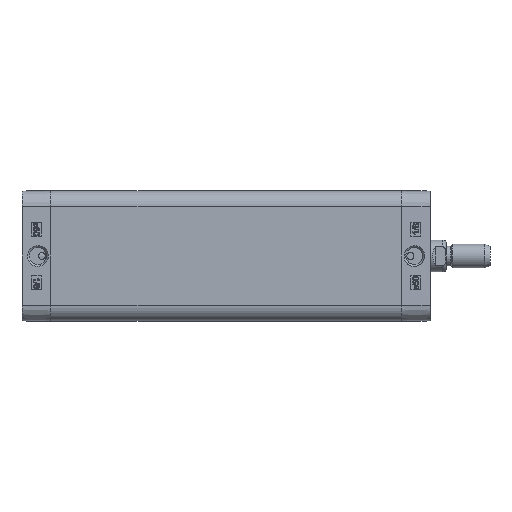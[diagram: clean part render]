
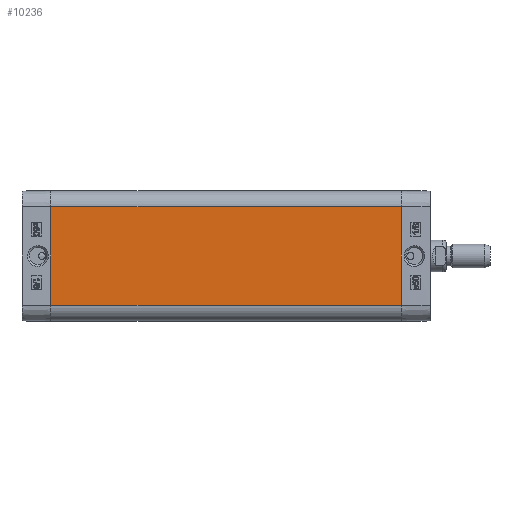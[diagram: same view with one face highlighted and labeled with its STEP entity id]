
A CAD part, left-side view. The second image highlights one B-rep face of the part: STEP entity #10236.
In plain terms, the highlighted planar face has unit normal (-1, 0, 0).
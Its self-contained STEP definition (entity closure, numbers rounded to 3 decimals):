
#5238=CARTESIAN_POINT('',(-32.75,-176.0,24.75));
#5239=VERTEX_POINT('',#5238);
#5246=CARTESIAN_POINT('',(-32.75,-176.0,-24.75));
#5247=VERTEX_POINT('',#5246);
#5248=CARTESIAN_POINT('',(-32.75,-176.0,-24.75));
#5249=DIRECTION('',(0.0,0.0,1.0));
#5250=VECTOR('',#5249,49.5);
#5251=LINE('',#5248,#5250);
#5252=EDGE_CURVE('',#5247,#5239,#5251,.T.);
#10194=CARTESIAN_POINT('',(-32.75,0.0,-24.75));
#10195=VERTEX_POINT('',#10194);
#10196=CARTESIAN_POINT('',(-32.75,0.0,-24.75));
#10197=DIRECTION('',(0.0,-1.0,0.0));
#10198=VECTOR('',#10197,176.0);
#10199=LINE('',#10196,#10198);
#10200=EDGE_CURVE('',#10195,#5247,#10199,.T.);
#10213=CARTESIAN_POINT('',(-32.75,0.0,-24.75));
#10214=DIRECTION('',(-1.0,0.0,0.0));
#10215=DIRECTION('',(0.0,0.0,1.0));
#10216=AXIS2_PLACEMENT_3D('',#10213,#10214,#10215);
#10217=PLANE('',#10216);
#10218=ORIENTED_EDGE('',*,*,#5252,.T.);
#10219=CARTESIAN_POINT('',(-32.75,0.0,24.75));
#10220=VERTEX_POINT('',#10219);
#10221=CARTESIAN_POINT('',(-32.75,0.0,24.75));
#10222=DIRECTION('',(0.0,-1.0,0.0));
#10223=VECTOR('',#10222,176.0);
#10224=LINE('',#10221,#10223);
#10225=EDGE_CURVE('',#10220,#5239,#10224,.T.);
#10226=ORIENTED_EDGE('',*,*,#10225,.F.);
#10227=CARTESIAN_POINT('',(-32.75,0.0,-24.75));
#10228=DIRECTION('',(0.0,0.0,1.0));
#10229=VECTOR('',#10228,49.5);
#10230=LINE('',#10227,#10229);
#10231=EDGE_CURVE('',#10195,#10220,#10230,.T.);
#10232=ORIENTED_EDGE('',*,*,#10231,.F.);
#10233=ORIENTED_EDGE('',*,*,#10200,.T.);
#10234=EDGE_LOOP('',(#10218,#10226,#10232,#10233));
#10235=FACE_OUTER_BOUND('',#10234,.T.);
#10236=ADVANCED_FACE('',(#10235),#10217,.T.);
